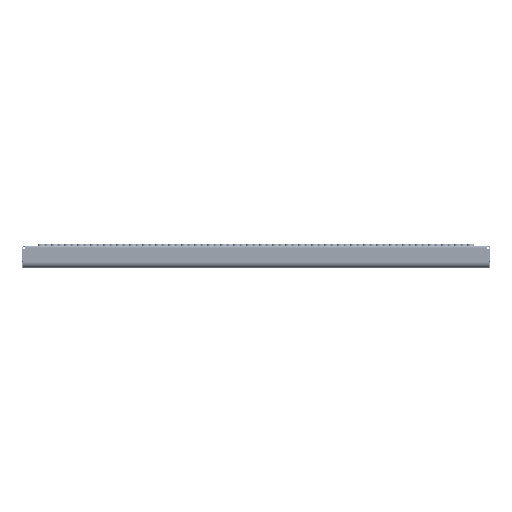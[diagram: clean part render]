
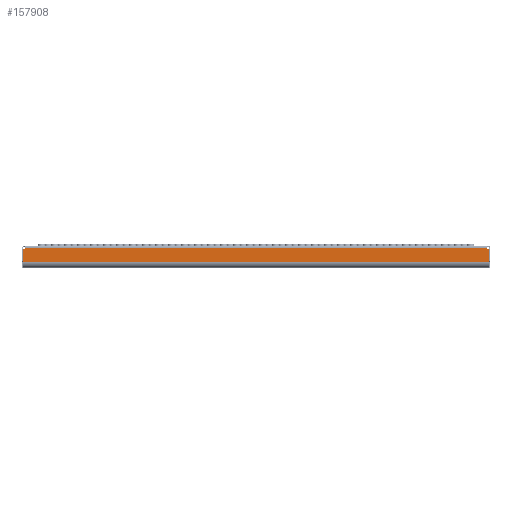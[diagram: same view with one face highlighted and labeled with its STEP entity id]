
A CAD part, top view. The second image highlights one B-rep face of the part: STEP entity #157908.
In plain terms, the highlighted planar face has unit normal (0, 0, 1).
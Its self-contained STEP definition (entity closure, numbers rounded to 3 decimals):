
#4949 = VERTEX_POINT ( 'NONE', #299415 ) ;
#5003 = CARTESIAN_POINT ( 'NONE',  ( -447.99, -7.185, 112.5 ) ) ;
#5900 = CIRCLE ( 'NONE', #88298, 5. ) ;
#6848 = LINE ( 'NONE', #263133, #69579 ) ;
#28043 = DIRECTION ( 'NONE',  ( 0., -1., 0. ) ) ;
#34483 = DIRECTION ( 'NONE',  ( 1., 0., 0. ) ) ;
#40507 = CIRCLE ( 'NONE', #323045, 5. ) ;
#43768 = ORIENTED_EDGE ( 'NONE', *, *, #168735, .T. ) ;
#48533 = DIRECTION ( 'NONE',  ( 0., 0., -1. ) ) ;
#48977 = EDGE_LOOP ( 'NONE', ( #43768, #103570, #248690, #112553, #135417, #266494 ) ) ;
#52983 = VECTOR ( 'NONE', #166139, 1000. ) ;
#53686 = CARTESIAN_POINT ( 'NONE',  ( -447.99, -31.998, 112.5 ) ) ;
#61148 = DIRECTION ( 'NONE',  ( 0., 0., 1. ) ) ;
#69579 = VECTOR ( 'NONE', #34483, 1000. ) ;
#74414 = EDGE_CURVE ( 'NONE', #243597, #127784, #160803, .T. ) ;
#75094 = LINE ( 'NONE', #106393, #285366 ) ;
#82850 = CARTESIAN_POINT ( 'NONE',  ( 447.99, -7.185, 112.5 ) ) ;
#83363 = CARTESIAN_POINT ( 'NONE',  ( -449., 220.712, 112.5 ) ) ;
#88298 = AXIS2_PLACEMENT_3D ( 'NONE', #354775, #48533, #330754 ) ;
#103570 = ORIENTED_EDGE ( 'NONE', *, *, #198516, .T. ) ;
#103666 = VERTEX_POINT ( 'NONE', #337484 ) ;
#105524 = CARTESIAN_POINT ( 'NONE',  ( -447.99, -7.185, 112.5 ) ) ;
#106393 = CARTESIAN_POINT ( 'NONE',  ( 447.99, -7.185, 112.5 ) ) ;
#112553 = ORIENTED_EDGE ( 'NONE', *, *, #350100, .F. ) ;
#123227 = VERTEX_POINT ( 'NONE', #82850 ) ;
#127784 = VERTEX_POINT ( 'NONE', #246200 ) ;
#135417 = ORIENTED_EDGE ( 'NONE', *, *, #316929, .T. ) ;
#136424 = CARTESIAN_POINT ( 'NONE',  ( 444.302, -4., 112.5 ) ) ;
#157908 = ADVANCED_FACE ( 'NONE', ( #225358 ), #223583, .T. ) ;
#160803 = LINE ( 'NONE', #105524, #169001 ) ;
#166139 = DIRECTION ( 'NONE',  ( 1., 0., 0. ) ) ;
#168735 = EDGE_CURVE ( 'NONE', #127784, #4949, #306373, .T. ) ;
#169001 = VECTOR ( 'NONE', #325087, 1000. ) ;
#169291 = DIRECTION ( 'NONE',  ( 0., -1., 0. ) ) ;
#198516 = EDGE_CURVE ( 'NONE', #4949, #123227, #75094, .T. ) ;
#223583 = PLANE ( 'NONE',  #329616 ) ;
#225358 = FACE_OUTER_BOUND ( 'NONE', #48977, .T. ) ;
#243597 = VERTEX_POINT ( 'NONE', #5003 ) ;
#246200 = CARTESIAN_POINT ( 'NONE',  ( -447.99, -31.998, 112.5 ) ) ;
#248690 = ORIENTED_EDGE ( 'NONE', *, *, #291131, .T. ) ;
#263133 = CARTESIAN_POINT ( 'NONE',  ( -449., -4., 112.5 ) ) ;
#266494 = ORIENTED_EDGE ( 'NONE', *, *, #74414, .T. ) ;
#285366 = VECTOR ( 'NONE', #333243, 1000. ) ;
#288410 = VERTEX_POINT ( 'NONE', #136424 ) ;
#291131 = EDGE_CURVE ( 'NONE', #123227, #288410, #5900, .T. ) ;
#299415 = CARTESIAN_POINT ( 'NONE',  ( 447.99, -31.998, 112.5 ) ) ;
#306373 = LINE ( 'NONE', #53686, #52983 ) ;
#316929 = EDGE_CURVE ( 'NONE', #103666, #243597, #40507, .T. ) ;
#323045 = AXIS2_PLACEMENT_3D ( 'NONE', #361224, #364843, #169291 ) ;
#325087 = DIRECTION ( 'NONE',  ( 0., -1., 0. ) ) ;
#329616 = AXIS2_PLACEMENT_3D ( 'NONE', #83363, #61148, #28043 ) ;
#330754 = DIRECTION ( 'NONE',  ( 0., -1., 0. ) ) ;
#333243 = DIRECTION ( 'NONE',  ( 0., 1., 0. ) ) ;
#337484 = CARTESIAN_POINT ( 'NONE',  ( -444.302, -4., 112.5 ) ) ;
#350100 = EDGE_CURVE ( 'NONE', #103666, #288410, #6848, .T. ) ;
#354775 = CARTESIAN_POINT ( 'NONE',  ( 449., -2.288, 112.5 ) ) ;
#361224 = CARTESIAN_POINT ( 'NONE',  ( -449., -2.288, 112.5 ) ) ;
#364843 = DIRECTION ( 'NONE',  ( 0., 0., -1. ) ) ;
